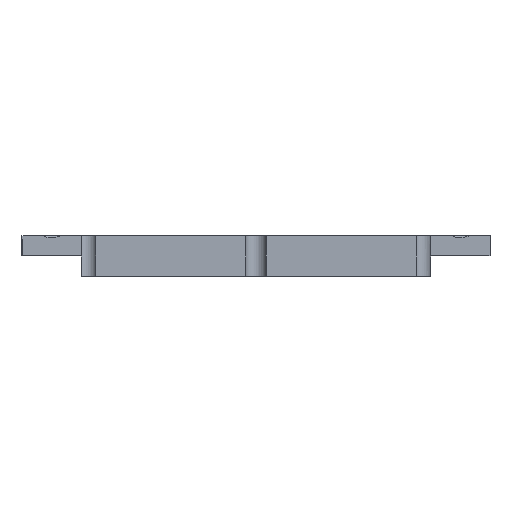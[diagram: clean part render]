
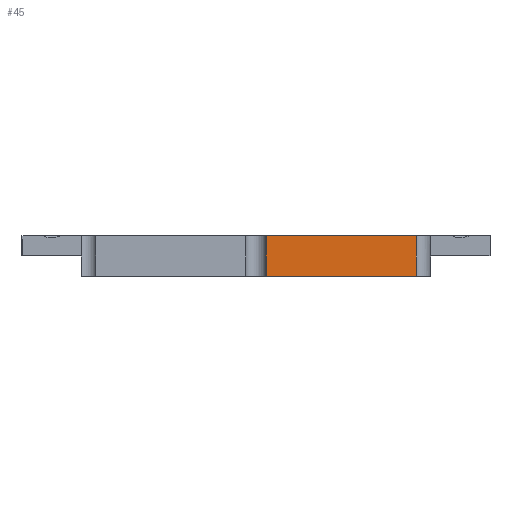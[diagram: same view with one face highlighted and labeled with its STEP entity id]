
A CAD part, front view. The second image highlights one B-rep face of the part: STEP entity #45.
In plain terms, the highlighted planar face has unit normal (0, -1, 0).
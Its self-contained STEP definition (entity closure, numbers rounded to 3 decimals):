
#45 = ADVANCED_FACE ( 'NONE', ( #997 ), #2275, .F. ) ;
#150 = EDGE_CURVE ( 'NONE', #1761, #1795, #1200, .T. ) ;
#247 = EDGE_CURVE ( 'NONE', #795, #1795, #1285, .T. ) ;
#280 = EDGE_CURVE ( 'NONE', #795, #812, #760, .T. ) ;
#310 = EDGE_CURVE ( 'NONE', #1761, #812, #710, .T. ) ;
#375 = AXIS2_PLACEMENT_3D ( 'NONE', #2276, #2266, #2285 ) ;
#504 = CARTESIAN_POINT ( 'NONE',  ( -17.1, -13.8, -2. ) ) ;
#507 = DIRECTION ( 'NONE',  ( -1., 0., 0. ) ) ;
#544 = CARTESIAN_POINT ( 'NONE',  ( 1., -13.8, 2. ) ) ;
#564 = CARTESIAN_POINT ( 'NONE',  ( 15.7, -13.8, -2. ) ) ;
#585 = CARTESIAN_POINT ( 'NONE',  ( 1., -13.8, -2. ) ) ;
#594 = CARTESIAN_POINT ( 'NONE',  ( 15.7, -13.8, 2. ) ) ;
#687 = DIRECTION ( 'NONE',  ( 0., 0., -1. ) ) ;
#691 = CARTESIAN_POINT ( 'NONE',  ( 1., -13.8, 2. ) ) ;
#707 = VECTOR ( 'NONE', #507, 1000. ) ;
#710 = LINE ( 'NONE', #504, #707 ) ;
#721 = VECTOR ( 'NONE', #687, 1000. ) ;
#760 = LINE ( 'NONE', #691, #721 ) ;
#795 = VERTEX_POINT ( 'NONE', #544 ) ;
#812 = VERTEX_POINT ( 'NONE', #585 ) ;
#837 = EDGE_LOOP ( 'NONE', ( #1545, #1583, #1614, #1619 ) ) ;
#997 = FACE_OUTER_BOUND ( 'NONE', #837, .T. ) ;
#1188 = VECTOR ( 'NONE', #2533, 1000. ) ;
#1200 = LINE ( 'NONE', #2545, #1188 ) ;
#1285 = LINE ( 'NONE', #2049, #1302 ) ;
#1302 = VECTOR ( 'NONE', #2076, 1000. ) ;
#1545 = ORIENTED_EDGE ( 'NONE', *, *, #310, .F. ) ;
#1583 = ORIENTED_EDGE ( 'NONE', *, *, #150, .T. ) ;
#1614 = ORIENTED_EDGE ( 'NONE', *, *, #247, .F. ) ;
#1619 = ORIENTED_EDGE ( 'NONE', *, *, #280, .T. ) ;
#1761 = VERTEX_POINT ( 'NONE', #564 ) ;
#1795 = VERTEX_POINT ( 'NONE', #594 ) ;
#2049 = CARTESIAN_POINT ( 'NONE',  ( 17.1, -13.8, 2. ) ) ;
#2076 = DIRECTION ( 'NONE',  ( 1., 0., 0. ) ) ;
#2266 = DIRECTION ( 'NONE',  ( 0., 1., 0. ) ) ;
#2275 = PLANE ( 'NONE',  #375 ) ;
#2276 = CARTESIAN_POINT ( 'NONE',  ( 17.1, -13.8, 2. ) ) ;
#2285 = DIRECTION ( 'NONE',  ( -1., 0., 0. ) ) ;
#2533 = DIRECTION ( 'NONE',  ( 0., 0., 1. ) ) ;
#2545 = CARTESIAN_POINT ( 'NONE',  ( 15.7, -13.8, -2. ) ) ;
